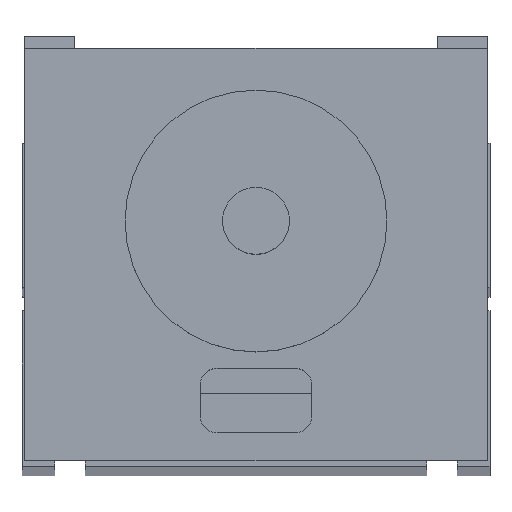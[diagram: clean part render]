
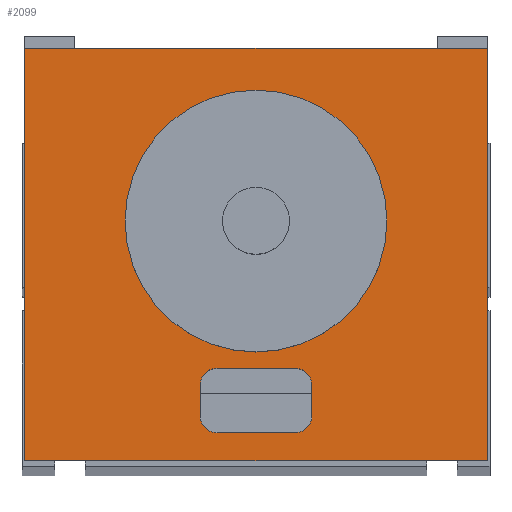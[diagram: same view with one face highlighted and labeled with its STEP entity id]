
A CAD part, top view. The second image highlights one B-rep face of the part: STEP entity #2099.
In plain terms, the highlighted planar face has unit normal (0, 0, 1).
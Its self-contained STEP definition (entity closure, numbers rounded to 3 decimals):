
#187 = VERTEX_POINT ( 'NONE', #2417 ) ;
#621 = VERTEX_POINT ( 'NONE', #3135 ) ;
#672 = EDGE_CURVE ( 'NONE', #685, #621, #3209, .T. ) ;
#685 = VERTEX_POINT ( 'NONE', #3202 ) ;
#706 = EDGE_CURVE ( 'NONE', #187, #708, #3216, .T. ) ;
#708 = VERTEX_POINT ( 'NONE', #3213 ) ;
#1875 = ORIENTED_EDGE ( 'NONE', *, *, #706, .F. ) ;
#1876 = ORIENTED_EDGE ( 'NONE', *, *, #1889, .F. ) ;
#1877 = EDGE_CURVE ( 'NONE', #621, #2082, #5039, .T. ) ;
#1879 = ORIENTED_EDGE ( 'NONE', *, *, #1880, .F. ) ;
#1880 = EDGE_CURVE ( 'NONE', #708, #2100, #5034, .T. ) ;
#1881 = EDGE_CURVE ( 'NONE', #2026, #2002, #5029, .T. ) ;
#1883 = EDGE_CURVE ( 'NONE', #2104, #685, #5038, .T. ) ;
#1889 = EDGE_CURVE ( 'NONE', #2082, #2081, #5016, .T. ) ;
#1890 = ORIENTED_EDGE ( 'NONE', *, *, #2084, .F. ) ;
#2002 = VERTEX_POINT ( 'NONE', #5189 ) ;
#2026 = VERTEX_POINT ( 'NONE', #5197 ) ;
#2038 = EDGE_CURVE ( 'NONE', #2044, #2049, #5254, .T. ) ;
#2040 = ORIENTED_EDGE ( 'NONE', *, *, #2038, .T. ) ;
#2044 = VERTEX_POINT ( 'NONE', #5252 ) ;
#2049 = VERTEX_POINT ( 'NONE', #5236 ) ;
#2081 = VERTEX_POINT ( 'NONE', #5301 ) ;
#2082 = VERTEX_POINT ( 'NONE', #5308 ) ;
#2083 = ORIENTED_EDGE ( 'NONE', *, *, #1877, .F. ) ;
#2084 = EDGE_CURVE ( 'NONE', #2081, #187, #5288, .T. ) ;
#2085 = ORIENTED_EDGE ( 'NONE', *, *, #2095, .F. ) ;
#2086 = EDGE_LOOP ( 'NONE', ( #1890, #1876, #2083, #2089, #2090, #2085, #1879, #1875 ) ) ;
#2088 = ORIENTED_EDGE ( 'NONE', *, *, #1881, .T. ) ;
#2089 = ORIENTED_EDGE ( 'NONE', *, *, #672, .F. ) ;
#2090 = ORIENTED_EDGE ( 'NONE', *, *, #1883, .F. ) ;
#2093 = ORIENTED_EDGE ( 'NONE', *, *, #2098, .T. ) ;
#2095 = EDGE_CURVE ( 'NONE', #2100, #2104, #5342, .T. ) ;
#2098 = EDGE_CURVE ( 'NONE', #2002, #2044, #5338, .T. ) ;
#2099 = ADVANCED_FACE ( 'NONE', ( #5336, #5290 ), #5343, .F. ) ;
#2100 = VERTEX_POINT ( 'NONE', #5331 ) ;
#2101 = EDGE_LOOP ( 'NONE', ( #2093, #2040, #2116, #2088 ) ) ;
#2104 = VERTEX_POINT ( 'NONE', #5339 ) ;
#2110 = EDGE_CURVE ( 'NONE', #2049, #2026, #5370, .T. ) ;
#2116 = ORIENTED_EDGE ( 'NONE', *, *, #2110, .T. ) ;
#2417 = CARTESIAN_POINT ( 'NONE',  ( 31.5, 13.6, 30. ) ) ;
#3135 = CARTESIAN_POINT ( 'NONE',  ( 51.5, 13.6, 30. ) ) ;
#3202 = CARTESIAN_POINT ( 'NONE',  ( 51.5, 8., 30. ) ) ;
#3206 = DIRECTION ( 'NONE',  ( 0., 1., 0. ) ) ;
#3207 = VECTOR ( 'NONE', #3206, 1000. ) ;
#3208 = CARTESIAN_POINT ( 'NONE',  ( 51.5, 8., 30. ) ) ;
#3209 = LINE ( 'NONE', #3208, #3207 ) ;
#3213 = CARTESIAN_POINT ( 'NONE',  ( 31.5, 8., 30. ) ) ;
#3216 = LINE ( 'NONE', #3225, #3268 ) ;
#3224 = DIRECTION ( 'NONE',  ( 0., -1., 0. ) ) ;
#3225 = CARTESIAN_POINT ( 'NONE',  ( 31.5, 8., 30. ) ) ;
#3268 = VECTOR ( 'NONE', #3224, 1000. ) ;
#4990 = CARTESIAN_POINT ( 'NONE',  ( 48.5, 8., 30. ) ) ;
#4996 = CARTESIAN_POINT ( 'NONE',  ( 34.5, 8., 30. ) ) ;
#5006 = CARTESIAN_POINT ( 'NONE',  ( 0., 74., 30. ) ) ;
#5013 = DIRECTION ( 'NONE',  ( -1., 0., 0. ) ) ;
#5014 = DIRECTION ( 'NONE',  ( 0., 0., 1. ) ) ;
#5015 = CARTESIAN_POINT ( 'NONE',  ( 34.5, 16.6, 30. ) ) ;
#5016 = LINE ( 'NONE', #5015, #5074 ) ;
#5023 = DIRECTION ( 'NONE',  ( -1., 0., 0. ) ) ;
#5024 = VECTOR ( 'NONE', #5023, 1000. ) ;
#5026 = DIRECTION ( 'NONE',  ( 1., 0., 0. ) ) ;
#5027 = DIRECTION ( 'NONE',  ( 0., 0., 1. ) ) ;
#5028 = AXIS2_PLACEMENT_3D ( 'NONE', #4996, #5027, #5026 ) ;
#5029 = LINE ( 'NONE', #5006, #5024 ) ;
#5030 = DIRECTION ( 'NONE',  ( 1., 0., 0. ) ) ;
#5031 = DIRECTION ( 'NONE',  ( 0., 0., 1. ) ) ;
#5032 = CARTESIAN_POINT ( 'NONE',  ( 48.5, 13.6, 30. ) ) ;
#5033 = AXIS2_PLACEMENT_3D ( 'NONE', #5032, #5031, #5030 ) ;
#5034 = CIRCLE ( 'NONE', #5028, 3. ) ;
#5035 = AXIS2_PLACEMENT_3D ( 'NONE', #4990, #5014, #5013 ) ;
#5038 = CIRCLE ( 'NONE', #5035, 3. ) ;
#5039 = CIRCLE ( 'NONE', #5033, 3. ) ;
#5073 = DIRECTION ( 'NONE',  ( -1., 0., 0. ) ) ;
#5074 = VECTOR ( 'NONE', #5073, 1000. ) ;
#5189 = CARTESIAN_POINT ( 'NONE',  ( 0., 74., 30. ) ) ;
#5197 = CARTESIAN_POINT ( 'NONE',  ( 83., 74., 30. ) ) ;
#5236 = CARTESIAN_POINT ( 'NONE',  ( 83., 0., 30. ) ) ;
#5241 = DIRECTION ( 'NONE',  ( 1., 0., 0. ) ) ;
#5242 = VECTOR ( 'NONE', #5241, 1000. ) ;
#5252 = CARTESIAN_POINT ( 'NONE',  ( 0., 0., 30. ) ) ;
#5253 = CARTESIAN_POINT ( 'NONE',  ( 0., 0., 30. ) ) ;
#5254 = LINE ( 'NONE', #5253, #5242 ) ;
#5284 = DIRECTION ( 'NONE',  ( -1., 0., 0. ) ) ;
#5285 = DIRECTION ( 'NONE',  ( 0., 0., 1. ) ) ;
#5286 = CARTESIAN_POINT ( 'NONE',  ( 34.5, 13.6, 30. ) ) ;
#5287 = AXIS2_PLACEMENT_3D ( 'NONE', #5286, #5285, #5284 ) ;
#5288 = CIRCLE ( 'NONE', #5287, 3. ) ;
#5290 = FACE_BOUND ( 'NONE', #2086, .T. ) ;
#5301 = CARTESIAN_POINT ( 'NONE',  ( 34.5, 16.6, 30. ) ) ;
#5308 = CARTESIAN_POINT ( 'NONE',  ( 48.5, 16.6, 30. ) ) ;
#5327 = DIRECTION ( 'NONE',  ( -1., 0., 0. ) ) ;
#5328 = DIRECTION ( 'NONE',  ( 0., 0., -1. ) ) ;
#5329 = CARTESIAN_POINT ( 'NONE',  ( 0., 74., 30. ) ) ;
#5330 = AXIS2_PLACEMENT_3D ( 'NONE', #5329, #5328, #5327 ) ;
#5331 = CARTESIAN_POINT ( 'NONE',  ( 34.5, 5., 30. ) ) ;
#5332 = DIRECTION ( 'NONE',  ( 0., -1., 0. ) ) ;
#5333 = VECTOR ( 'NONE', #5332, 1000. ) ;
#5334 = DIRECTION ( 'NONE',  ( 1., 0., 0. ) ) ;
#5335 = VECTOR ( 'NONE', #5334, 1000. ) ;
#5336 = FACE_OUTER_BOUND ( 'NONE', #2101, .T. ) ;
#5337 = CARTESIAN_POINT ( 'NONE',  ( 0., 0., 30. ) ) ;
#5338 = LINE ( 'NONE', #5337, #5333 ) ;
#5339 = CARTESIAN_POINT ( 'NONE',  ( 48.5, 5., 30. ) ) ;
#5341 = CARTESIAN_POINT ( 'NONE',  ( 34.5, 5., 30. ) ) ;
#5342 = LINE ( 'NONE', #5341, #5335 ) ;
#5343 = PLANE ( 'NONE',  #5330 ) ;
#5361 = DIRECTION ( 'NONE',  ( 0., 1., 0. ) ) ;
#5362 = VECTOR ( 'NONE', #5361, 1000. ) ;
#5370 = LINE ( 'NONE', #5372, #5362 ) ;
#5372 = CARTESIAN_POINT ( 'NONE',  ( 83., 0., 30. ) ) ;
